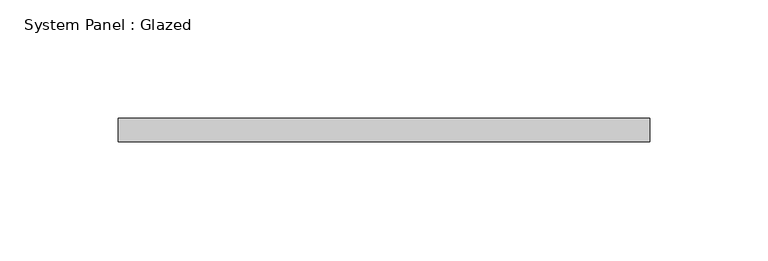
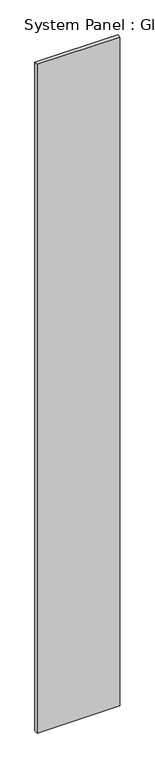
"""IFC4 building model written with IfcOpenShell, lengths in millimetres: plate geometry, System Panel : Glazed."""

from ifc_helpers import new_model, si_unit, origin, origin_with_axes, place, context, project, spatial, polyline, outline, extrude, source, transform, mapped, element, save


def system_panel_glazed_fb523d6f(model_context):
    return source(origin(), model_context, "Body", "SweptSolid", [
        extrude(outline(polyline([(112.4999998, -5.0), (-112.4999998, -5.0), (-112.4999998, 5.0), (112.4999998, 5.0), (112.4999998, -5.0)])), origin_with_axes(), (0.0, 0.0, 1.0), 1925.0),
    ])


if __name__ == "__main__":
    model = new_model("IFC4")
    model_context = context("Model", 3, world=origin())
    ifc_project = project(units=[si_unit("LENGTHUNIT", "METRE", prefix="MILLI")], contexts=[model_context])
    site = spatial("IfcSite", under=ifc_project)
    building = spatial("IfcBuilding", under=site)
    placement = place(None, origin())
    system_panel_glazed_shape = system_panel_glazed_fb523d6f(model_context)
    element("IfcPlate", 1, ObjectType="System Panel : Glazed", at=placement, inside=building, context=model_context, shape_type="MappedRepresentation", body=[
        mapped(system_panel_glazed_shape, transform((0.0, 0.0, 0.0), x_axis=(1.0, 0.0, 0.0), y_axis=(0.0, 1.0, 0.0), z_axis=(0.0, 0.0, 1.0))),
    ])
    save(model, "model.ifc")
